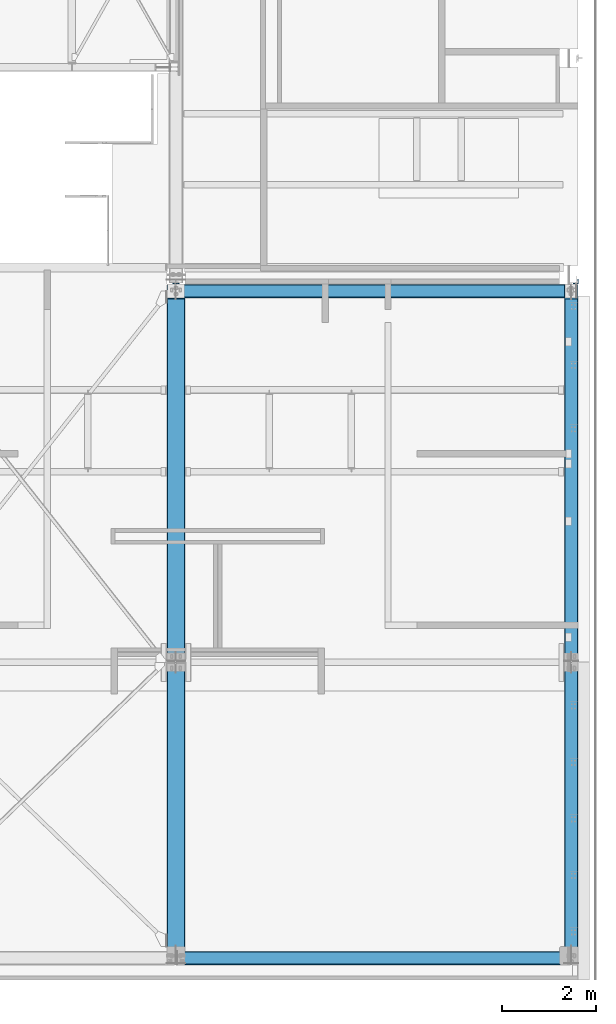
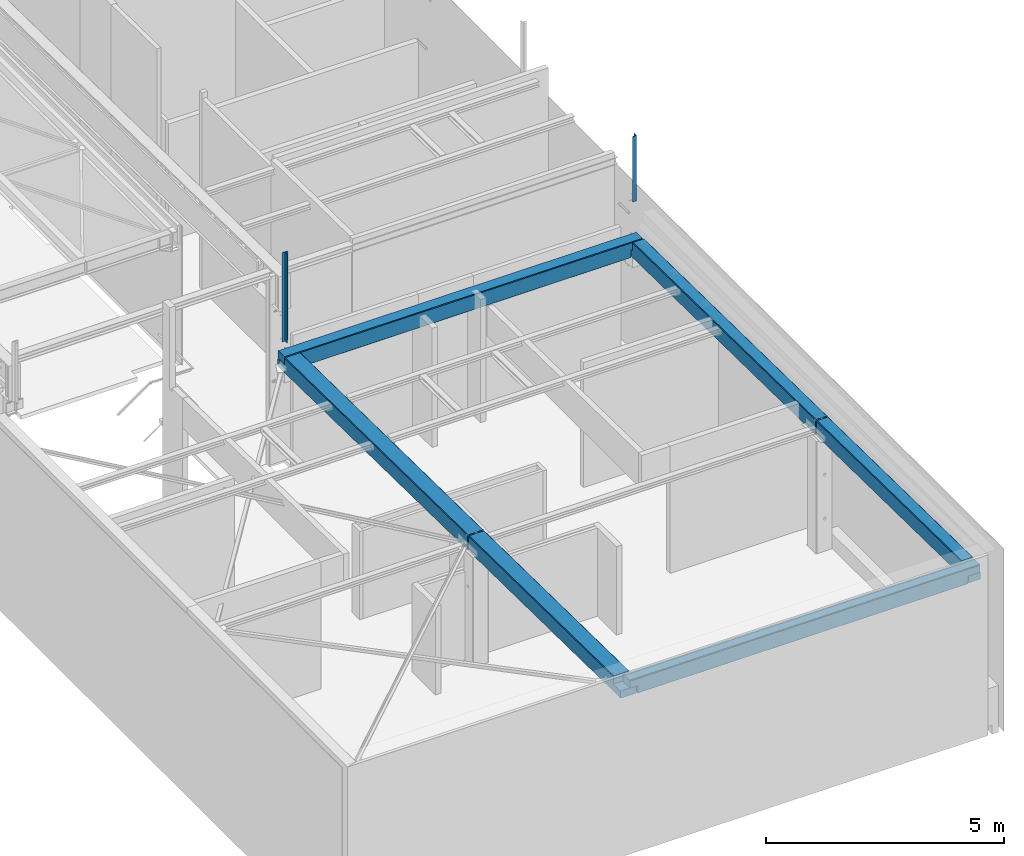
# One storey, part 128 of 186: 8 beams.
"""IFC4X3_ADD2 building model written with IfcOpenShell, lengths in millimetres."""

from ifc_helpers import new_model, si_unit, direction, frame, origin_with_axes, place, context, subcontext, project, spatial, polygons, element, save


model = new_model("IFC4X3_ADD2")

# Units and contexts
model_context = context("Model", 3, precision=1e-05, world=origin_with_axes(), true_north=direction((0.0, 1.0)))
body_context = subcontext(model_context, "Body", "Model", "MODEL_VIEW")
ifc_project = project(units=[si_unit("LENGTHUNIT", "METRE", prefix="MILLI"), si_unit("AREAUNIT", "SQUARE_METRE"), si_unit("VOLUMEUNIT", "CUBIC_METRE"), si_unit("PLANEANGLEUNIT", "RADIAN"), si_unit("TIMEUNIT", "SECOND"), si_unit("MASSUNIT", "GRAM")], contexts=[model_context])

# Site, building, storey
site_placement = place(None, origin_with_axes())
site = spatial("IfcSite", under=ifc_project, at=site_placement, Name="Site", CompositionType="ELEMENT")
building_placement = place(site_placement, origin_with_axes())
building = spatial("IfcBuilding", under=site, at=building_placement, Name="IFC Building Story")
storey_placement = place(building_placement, frame((0.0, 0.0, 4370.0), z_axis=(0.0, 0.0, 1.0), x_axis=(1.0, 0.0, 0.0)))
storey = spatial("IfcBuildingStorey", under=building, at=storey_placement, Name="ETAGE 10 (1)", Elevation=4370.0)

# Beams
beam_1_placement = place(storey_placement, frame((0.0, 0.0, -4370.0), z_axis=(0.0, 0.0, 1.0), x_axis=(1.0, 0.0, 0.0)))
element("IfcBeam", 1, at=beam_1_placement, inside=storey, Name="PS6", ObjectType="HALF_IPE270_100", context=body_context, shape_type="Tessellation", body=[
    polygons([(39969.48900000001, -88.09999999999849, 9980.0), (39969.48900000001, -88.09999999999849, 7690.0), (39969.48900000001, 1.700000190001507, 7690.0), (39969.48900000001, 1.700000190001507, 9980.0), (40033.68900000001, 1.700000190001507, 7690.0), (40033.68900000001, 1.700000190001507, 9980.0), (40033.68900000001, 11.9000000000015, 7690.0), (40033.68900000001, 11.9000000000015, 9980.0), (39898.689, 11.9000000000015, 7690.0), (39898.689, 11.9000000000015, 9980.0), (39898.689, 1.700000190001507, 7690.0), (39898.689, 1.700000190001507, 9980.0), (39962.889, 1.700000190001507, 7690.0), (39962.889, 1.700000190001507, 9980.0), (39962.88900000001, -88.09999999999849, 7690.0), (39962.88900000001, -88.09999999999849, 9980.0)], [[[1, 2, 3, 4]], [[4, 3, 5, 6]], [[6, 5, 7, 8]], [[8, 7, 9, 10]], [[10, 9, 11, 12]], [[12, 11, 13, 14]], [[14, 13, 15, 16]], [[16, 15, 2, 1]], [[4, 6, 8]], [[4, 8, 14]], [[14, 16, 1]], [[14, 1, 4]], [[8, 10, 14]], [[10, 12, 14]], [[13, 11, 9]], [[13, 9, 3]], [[3, 2, 15]], [[3, 15, 13]], [[9, 7, 3]], [[7, 5, 3]]]),
])
beam_2_placement = place(storey_placement, frame((0.0, 0.0, -4370.0), z_axis=(0.0, 0.0, 1.0), x_axis=(1.0, 0.0, 0.0)))
element("IfcBeam", 2, at=beam_2_placement, inside=storey, Name="BEAM", ObjectType="CRH_R_400*290*15", context=body_context, shape_type="Tessellation", body=[
    polygons([(48191.18969887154, -5.000610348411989, 7134.99958190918), (48191.18969887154, -5.000610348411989, 7324.96858190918), (48191.18969887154, -295.027340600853, 7324.96858190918), (48191.18969887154, -295.0006103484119, 7134.99958190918), (48191.18969887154, -280.0006103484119, 7119.99958190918), (48191.18969887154, -20.00061034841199, 7119.99958190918), (48481.18969887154, -5.000610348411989, 7324.96858190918), (48481.18969887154, -295.0006103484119, 7324.96858190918), (39791.1887833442, -295.0006103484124, 7504.99958190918), (48481.18969887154, -295.0006103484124, 7504.99958190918), (48481.18969887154, -280.0006103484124, 7519.99958190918), (39791.1887833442, -280.0006103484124, 7519.99958190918), (48481.18969887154, -20.00061034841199, 7519.99958190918), (39791.1887833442, -20.00061034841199, 7519.99958190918), (40181.1887833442, -5.000610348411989, 7324.96858190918), (40181.1887833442, -5.000610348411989, 7134.99958190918), (40181.1887833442, -20.00061034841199, 7119.99958190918), (40181.1887833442, -280.0006103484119, 7119.99958190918), (40181.1887833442, -295.0006103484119, 7134.99958190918), (40181.1887833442, -295.027340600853, 7324.96858190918), (39791.1887833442, -5.000610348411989, 7324.96858190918), (39791.1887833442, -295.0006103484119, 7324.96858190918), (39791.1887833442, -5.000610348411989, 7504.99958190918), (48481.18969887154, -5.000610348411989, 7504.99958190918), (48481.18969887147, -295.0073372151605, 7324.968581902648), (48481.18969887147, -295.0075120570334, 7504.999581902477)], [[[1, 2, 3]], [[1, 3, 4]], [[1, 4, 5]], [[1, 5, 6]], [[2, 7, 8, 3]], [[9, 10, 11, 12]], [[12, 11, 13, 14]], [[15, 16, 17]], [[15, 17, 18]], [[15, 18, 19]], [[15, 19, 20]], [[21, 15, 20, 22]], [[22, 9, 12]], [[22, 12, 14]], [[22, 14, 23]], [[22, 23, 21]], [[14, 13, 24, 23]], [[15, 21, 23]], [[15, 23, 2]], [[2, 1, 16]], [[2, 16, 15]], [[23, 24, 2]], [[24, 7, 2]], [[6, 17, 16, 1]], [[5, 18, 17, 6]], [[4, 19, 18, 5]], [[3, 25, 10]], [[3, 10, 20]], [[20, 19, 4]], [[20, 4, 3]], [[10, 9, 20]], [[9, 22, 20]], [[7, 24, 13]], [[7, 13, 11]], [[7, 11, 26]], [[7, 26, 8]]]),
])
beam_3_placement = place(storey_placement, frame((0.0, 0.0, -4370.0), z_axis=(0.0, 0.0, 1.0), x_axis=(1.0, 0.0, 0.0)))
element("IfcBeam", 3, at=beam_3_placement, inside=storey, Name="BEAM", ObjectType="CRH_R_400*290*15", context=body_context, shape_type="Tessellation", body=[
    polygons([(48097.18900000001, -14185.0, 7339.598981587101), (48097.18900000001, -14175.0, 7349.598981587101), (48097.18900000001, -14455.0, 7349.598981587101), (48097.18900000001, -14445.0, 7339.598981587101), (48196.189, -14175.0, 7349.598981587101), (48196.189, -14455.0, 7349.598981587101), (48486.189, -14185.0, 7739.598981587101), (39986.189, -14185.0, 7739.598981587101), (39986.189, -14445.0, 7739.598981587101), (48486.189, -14445.0, 7739.598981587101), (39986.189, -14460.0, 7724.5989815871), (48486.189, -14460.0, 7724.5989815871), (40186.189, -14170.0, 7544.598981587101), (40186.189, -14170.0, 7354.598981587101), (40186.189, -14185.0, 7339.598981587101), (40186.189, -14445.0, 7339.598981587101), (40186.189, -14460.0, 7354.598981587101), (40186.189, -14460.0, 7544.598981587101), (48196.189, -14460.0, 7354.598981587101), (48196.189, -14460.0, 7544.598981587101), (48486.189, -14460.0, 7544.598981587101), (39986.189, -14460.0, 7544.598981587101), (48196.189, -14170.0, 7544.598981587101), (48486.189, -14170.0, 7544.598981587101), (48486.189, -14170.0, 7724.5989815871), (39986.189, -14170.0, 7724.598981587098), (39986.189, -14170.0, 7544.598981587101), (48196.189, -14170.0, 7354.598981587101)], [[[1, 2, 3, 4]], [[2, 5, 6, 3]], [[7, 8, 9, 10]], [[10, 9, 11, 12]], [[13, 14, 15]], [[13, 15, 16]], [[13, 16, 17]], [[13, 17, 18]], [[20, 21, 12]], [[20, 12, 18]], [[18, 17, 19]], [[18, 19, 20]], [[12, 11, 18]], [[11, 22, 18]], [[23, 24, 21, 20]], [[24, 25, 7]], [[24, 7, 10]], [[24, 10, 12]], [[24, 12, 21]], [[25, 26, 8, 7]], [[22, 11, 9]], [[22, 9, 8]], [[22, 8, 26]], [[22, 26, 27]], [[27, 13, 18, 22]], [[13, 27, 26]], [[13, 26, 23]], [[23, 28, 14]], [[23, 14, 13]], [[26, 25, 23]], [[25, 24, 23]], [[2, 1, 15]], [[2, 15, 14]], [[14, 28, 2]], [[28, 5, 2]], [[4, 16, 15, 1]], [[3, 6, 19]], [[3, 19, 17]], [[17, 16, 4]], [[17, 4, 3]], [[5, 28, 23]], [[5, 23, 20]], [[5, 20, 19]], [[5, 19, 6]]]),
])
beam_4_placement = place(storey_placement, frame((0.0, 0.0, -4370.0), z_axis=(0.0, 0.0, 1.0), x_axis=(1.0, 0.0, 0.0)))
element("IfcBeam", 4, at=beam_4_placement, inside=storey, Name="BEAM", ObjectType="CRH_R_400*290*15", context=body_context, shape_type="Tessellation", body=[
    polygons([(48496.18935113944, -8254.99767876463, 7252.86809237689), (48491.18869887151, -8254.99767876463, 7247.866836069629), (48231.18869887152, -8254.99767876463, 7247.866836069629), (48226.18804660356, -8254.99767876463, 7252.86809237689), (48223.07973240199, -8054.99767876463, 7252.868092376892), (48499.29766534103, -8054.99767876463, 7252.868092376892), (48506.1886988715, -14140.0, 7724.386570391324), (48506.1886988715, -8054.99767876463, 7629.804651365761), (48491.18869887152, -8054.99767876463, 7644.806463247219), (48491.18869887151, -14140.0, 7739.388382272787), (48231.18869887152, -8054.99767876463, 7644.806463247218), (48231.18869887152, -14140.0, 7739.388382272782), (48216.1886988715, -8054.99767876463, 7629.804651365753), (48216.1886988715, -14140.0, 7724.386570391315), (48216.1886988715, -8054.99767876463, 7259.75995828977), (48216.1886988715, -14440.0, 7359.004911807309), (48216.1886988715, -14440.0, 7534.385416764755), (48216.1886988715, -14140.0, 7534.385416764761), (48491.18869887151, -14050.0, 7337.941155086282), (48503.24913287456, -14050.0, 7350.003045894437), (48219.12826486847, -14050.0, 7350.003045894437), (48231.18869887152, -14050.0, 7337.941155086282), (48497.18792018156, -14440.0, 7350.003045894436), (48225.18947756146, -14440.0, 7350.003045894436), (48506.1886988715, -14440.0, 7359.004911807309), (48506.1886988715, -14440.0, 7534.385416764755), (48506.1886988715, -14140.0, 7534.385416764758), (48506.1886988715, -8054.99767876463, 7259.75995828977)], [[[1, 2, 3, 4]], [[5, 6, 1, 4]], [[7, 8, 9, 10]], [[10, 9, 11, 12]], [[12, 11, 13, 14]], [[18, 14, 13]], [[18, 13, 15]], [[15, 16, 18]], [[16, 17, 18]], [[19, 20, 21, 22]], [[20, 23, 24, 21]], [[17, 16, 24]], [[17, 24, 23]], [[17, 23, 25]], [[17, 25, 26]], [[26, 27, 18, 17]], [[27, 7, 10]], [[27, 10, 12]], [[27, 12, 14]], [[27, 14, 18]], [[27, 26, 25]], [[27, 25, 28]], [[28, 8, 7]], [[28, 7, 27]], [[5, 15, 13]], [[5, 13, 11]], [[5, 11, 9]], [[5, 9, 8]], [[5, 8, 28]], [[5, 28, 6]], [[21, 24, 16]], [[4, 3, 22]], [[21, 16, 15]], [[4, 22, 21]], [[21, 15, 4]], [[15, 5, 4]], [[2, 19, 22, 3]], [[1, 6, 28]], [[1, 28, 20]], [[20, 19, 1]], [[19, 2, 1]], [[28, 25, 20]], [[25, 23, 20]]]),
])
beam_5_placement = place(storey_placement, frame((0.0, 0.0, -4370.0), z_axis=(0.0, 0.0, 1.0), x_axis=(1.0, 0.0, 0.0)))
element("IfcBeam", 5, at=beam_5_placement, inside=storey, Name="BEAM", ObjectType="CRH_R_400*290*15", context=body_context, shape_type="Tessellation", body=[
    polygons([(48492.18869887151, -319.9997001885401, 7524.660446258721), (48507.1886988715, -319.9997001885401, 7509.658636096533), (48507.1886988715, -319.9997001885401, 7314.999624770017), (48217.1886988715, -319.9997001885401, 7314.999624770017), (48217.1886988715, -319.9997001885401, 7509.658636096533), (48232.18869887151, -319.9997001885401, 7524.660446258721), (48507.1886988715, -19.99970018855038, 7314.999624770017), (48217.1886988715, -19.99970018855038, 7314.999624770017), (48498.18798354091, -8015.00925635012, 7250.162403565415), (48507.1886988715, -8015.00925635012, 7259.164205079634), (48507.1886988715, -8015.00925635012, 7629.20885574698), (48492.18869887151, -8015.00925635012, 7644.21066590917), (48232.18869887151, -8015.00925635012, 7644.21066590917), (48217.1886988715, -8015.00925635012, 7629.20885574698), (48217.1886988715, -8015.00925635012, 7259.164205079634), (48226.18941420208, -8015.00925635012, 7250.162403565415), (48501.29482294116, -7815.00925635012, 7250.162403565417), (48223.08257480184, -7815.00925635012, 7250.162403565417), (48492.18869887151, -7815.00925635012, 7241.055180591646), (48232.18869887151, -7815.00925635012, 7241.055180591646), (48492.18869887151, -319.9997001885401, 7124.612175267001), (48232.18869887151, -319.9997001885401, 7124.612175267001), (48497.18728281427, -319.9997001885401, 7129.611362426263), (48227.19011492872, -319.9997001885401, 7129.611362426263), (48217.1886988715, -19.99970018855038, 7134.953163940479), (48222.52985582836, -19.99970018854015, 7129.611362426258), (48501.84754191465, -19.99970018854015, 7129.611362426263), (48507.1886988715, -19.99970018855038, 7134.953163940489)], [[[1, 2, 3]], [[1, 3, 4]], [[1, 4, 5]], [[1, 5, 6]], [[3, 7, 8, 4]], [[9, 10, 11]], [[9, 11, 12]], [[9, 12, 13]], [[9, 13, 14]], [[9, 14, 15]], [[9, 15, 16]], [[17, 9, 16, 18]], [[19, 17, 18, 20]], [[21, 19, 20, 22]], [[23, 21, 22, 24]], [[18, 16, 15]], [[24, 22, 20]], [[24, 20, 18]], [[18, 15, 25]], [[24, 18, 25]], [[25, 26, 24]], [[26, 27, 23, 24]], [[23, 27, 28]], [[23, 28, 17]], [[17, 19, 23]], [[19, 21, 23]], [[28, 10, 17]], [[10, 9, 17]], [[3, 2, 11]], [[3, 11, 10]], [[10, 28, 3]], [[28, 7, 3]], [[1, 12, 11, 2]], [[6, 13, 12, 1]], [[5, 14, 13, 6]], [[4, 8, 25]], [[4, 25, 15]], [[15, 14, 5]], [[15, 5, 4]], [[7, 28, 27]], [[7, 27, 26]], [[7, 26, 25]], [[7, 25, 8]]]),
])
beam_6_placement = place(storey_placement, frame((0.0, 0.0, -4370.0), z_axis=(0.0, 0.0, 1.0), x_axis=(1.0, 0.0, 0.0)))
element("IfcBeam", 6, at=beam_6_placement, inside=storey, Name="BEAM", ObjectType="CRH_R_400*390*15", context=body_context, shape_type="Tessellation", body=[
    polygons([(40151.18636886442, -8255.019837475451, 7252.600854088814), (40146.1890204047, -8255.019837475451, 7247.60290609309), (39786.18902040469, -8255.019837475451, 7247.60290609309), (39781.19167194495, -8255.019837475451, 7252.600854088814), (39778.09394074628, -8055.019837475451, 7252.600854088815), (40154.2841000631, -8055.019837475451, 7252.600854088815), (40161.1890204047, -14140.0191426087, 7723.810760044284), (40161.1890204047, -8055.019837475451, 7629.550992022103), (40146.1890204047, -8055.019837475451, 7644.552791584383), (40146.1890204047, -14140.0191426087, 7738.812559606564), (39786.18902040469, -8055.019837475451, 7644.55279158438), (39786.18902040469, -14140.0191426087, 7738.812559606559), (39771.1890204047, -8055.019837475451, 7629.550992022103), (39771.1890204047, -14140.0191426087, 7723.810760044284), (39771.1890204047, -8055.019837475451, 7259.506602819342), (39771.1890204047, -14440.0191426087, 7358.413525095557), (39771.1890204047, -14440.0191426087, 7533.814713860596), (39771.1890204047, -14140.0191426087, 7533.814713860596), (40146.1890204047, -14050.0191426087, 7337.370425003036), (40157.22904728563, -14050.0191426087, 7348.411776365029), (39775.14899352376, -14050.0191426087, 7348.411776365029), (39786.18902040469, -14050.0191426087, 7337.370425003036), (40151.18847144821, -14440.0191426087, 7348.411776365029), (39781.18956936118, -14440.0191426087, 7348.411776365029), (40161.1890204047, -14440.0191426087, 7358.413525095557), (40161.1890204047, -14440.0191426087, 7533.814713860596), (40161.1890204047, -14140.0191426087, 7533.814713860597), (40161.1890204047, -8055.019837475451, 7259.506602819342)], [[[1, 2, 3, 4]], [[5, 6, 1, 4]], [[7, 8, 9, 10]], [[10, 9, 11, 12]], [[12, 11, 13, 14]], [[18, 14, 13]], [[18, 13, 15]], [[15, 16, 18]], [[16, 17, 18]], [[19, 20, 21, 22]], [[20, 23, 24, 21]], [[17, 16, 24]], [[17, 24, 23]], [[17, 23, 25]], [[17, 25, 26]], [[26, 27, 18, 17]], [[27, 7, 10]], [[27, 10, 12]], [[27, 12, 14]], [[27, 14, 18]], [[27, 26, 25]], [[27, 25, 28]], [[28, 8, 7]], [[28, 7, 27]], [[5, 15, 13]], [[5, 13, 11]], [[5, 11, 9]], [[5, 9, 8]], [[5, 8, 28]], [[5, 28, 6]], [[21, 24, 16]], [[4, 3, 22]], [[21, 16, 15]], [[4, 22, 21]], [[21, 15, 4]], [[15, 5, 4]], [[2, 19, 22, 3]], [[1, 6, 28]], [[1, 28, 20]], [[20, 19, 1]], [[19, 2, 1]], [[28, 25, 20]], [[25, 23, 20]]]),
])
beam_7_placement = place(storey_placement, frame((0.0, 0.0, -4370.0), z_axis=(0.0, 0.0, 1.0), x_axis=(1.0, 0.0, 0.0)))
element("IfcBeam", 7, at=beam_7_placement, inside=storey, Name="BEAM", ObjectType="CRH_R_400*390*15", context=body_context, shape_type="Tessellation", body=[
    polygons([(40146.1890210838, -320.0295378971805, 7524.648766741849), (40161.1890210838, -320.0295378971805, 7509.646965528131), (40161.1890210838, -320.0295378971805, 7314.999480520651), (39771.1890210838, -320.0295378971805, 7314.999480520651), (39771.1890210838, -320.0295378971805, 7509.646965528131), (39786.18902108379, -320.0295378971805, 7524.648766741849), (40161.1890210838, -20.02953789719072, 7314.999480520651), (39771.1890210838, -20.02953789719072, 7314.999480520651), (40152.18828739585, -8015.010075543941, 7249.854611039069), (40161.1890210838, -8015.010075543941, 7258.856425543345), (40161.1890210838, -8015.010075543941, 7628.900855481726), (40146.1890210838, -8015.010075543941, 7643.902656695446), (39786.18902108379, -8015.010075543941, 7643.902656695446), (39771.1890210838, -8015.010075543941, 7628.900855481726), (39771.1890210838, -8015.010075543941, 7258.856425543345), (39780.18975477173, -8015.010075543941, 7249.854611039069), (40155.28743939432, -7815.010075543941, 7249.854611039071), (39777.09060277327, -7815.010075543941, 7249.854611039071), (40146.1890210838, -7815.010075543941, 7240.75510018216), (39786.18902108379, -7815.010075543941, 7240.75510018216), (40146.1890210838, -320.0295378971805, 7124.60073437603), (39786.18902108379, -320.0295378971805, 7124.60073437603), (40151.18912115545, -320.0295378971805, 7129.601434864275), (39781.18892101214, -320.0295378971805, 7129.601434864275), (39771.1890210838, -20.02953789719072, 7134.95324936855), (39776.54019301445, -20.02953789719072, 7129.601434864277), (40155.83784915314, -20.02953789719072, 7129.601434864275), (40161.1890210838, -20.02953789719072, 7134.953249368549)], [[[1, 2, 3]], [[1, 3, 4]], [[1, 4, 5]], [[1, 5, 6]], [[3, 7, 8, 4]], [[9, 10, 11]], [[9, 11, 12]], [[9, 12, 13]], [[9, 13, 14]], [[9, 14, 15]], [[9, 15, 16]], [[17, 9, 16, 18]], [[19, 17, 18, 20]], [[21, 19, 20, 22]], [[23, 21, 22, 24]], [[18, 16, 15]], [[24, 22, 20]], [[24, 20, 18]], [[18, 15, 25]], [[24, 18, 25]], [[25, 26, 24]], [[26, 27, 23, 24]], [[23, 27, 28]], [[23, 28, 17]], [[17, 19, 23]], [[19, 21, 23]], [[28, 10, 17]], [[10, 9, 17]], [[3, 2, 11]], [[3, 11, 10]], [[10, 28, 3]], [[28, 7, 3]], [[1, 12, 11, 2]], [[6, 13, 12, 1]], [[5, 14, 13, 6]], [[4, 8, 25]], [[4, 25, 15]], [[15, 14, 5]], [[15, 5, 4]], [[7, 28, 27]], [[7, 27, 26]], [[7, 26, 25]], [[7, 25, 8]]]),
])
beam_8_placement = place(storey_placement, frame((0.0, 0.0, -4370.0), z_axis=(0.0, 0.0, 1.0), x_axis=(1.0, 0.0, 0.0)))
element("IfcBeam", 8, at=beam_8_placement, inside=storey, Name="PS3", ObjectType="L100/100/10", context=body_context, shape_type="Tessellation", body=[
    polygons([(48504.188, 2.0, 9980.0), (48504.188, 2.0, 8300.0), (48504.188, 102.0, 8300.0), (48504.188, 102.0, 9980.0), (48494.188, 102.0, 8300.0), (48494.188, 102.0, 9980.0), (48494.188, 12.0, 8300.0), (48494.188, 12.0, 9980.0), (48404.188, 12.0, 8300.0), (48404.188, 12.0, 9980.0), (48404.188, 2.0, 8300.0), (48404.188, 2.0, 9980.0)], [[[1, 2, 3, 4]], [[4, 3, 5, 6]], [[6, 5, 7, 8]], [[8, 7, 9, 10]], [[10, 9, 11, 12]], [[12, 11, 2, 1]], [[8, 10, 12]], [[8, 12, 1]], [[1, 4, 6]], [[1, 6, 8]], [[7, 5, 3]], [[7, 3, 2]], [[2, 11, 9]], [[2, 9, 7]]]),
])

save(model, "model.ifc")
